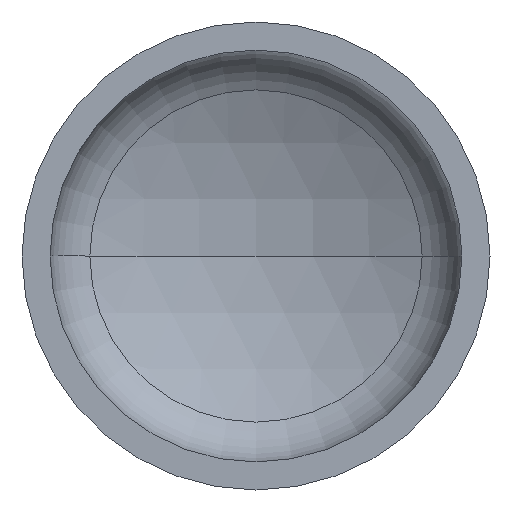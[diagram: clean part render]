
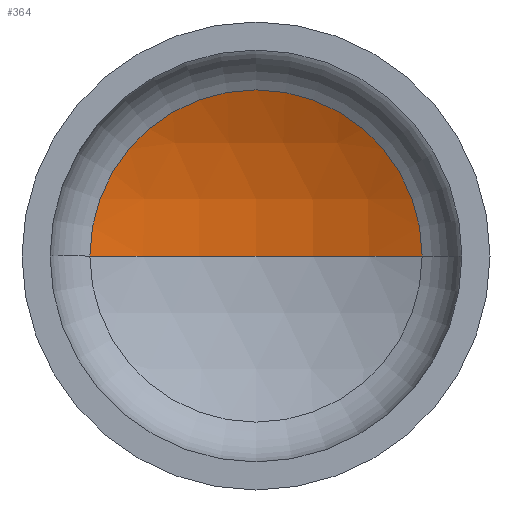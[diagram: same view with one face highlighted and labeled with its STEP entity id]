
A CAD part, front view. The second image highlights one B-rep face of the part: STEP entity #364.
In plain terms, the highlighted spherical face has radius 1440 mm.
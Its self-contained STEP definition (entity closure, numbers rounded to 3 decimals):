
#7 = AXIS2_PLACEMENT_3D ( 'NONE', #349, #381, #134 ) ;
#13 = EDGE_LOOP ( 'NONE', ( #68, #126, #52 ) ) ;
#18 = DIRECTION ( 'NONE',  ( -1., 0., 0. ) ) ;
#24 = DIRECTION ( 'NONE',  ( 0., 0., -1. ) ) ;
#31 = CARTESIAN_POINT ( 'NONE',  ( 0., -969., 0. ) ) ;
#48 = AXIS2_PLACEMENT_3D ( 'NONE', #228, #226, #227 ) ;
#50 = AXIS2_PLACEMENT_3D ( 'NONE', #31, #24, #18 ) ;
#52 = ORIENTED_EDGE ( 'NONE', *, *, #124, .T. ) ;
#54 = AXIS2_PLACEMENT_3D ( 'NONE', #209, #210, #149 ) ;
#56 = VERTEX_POINT ( 'NONE', #253 ) ;
#64 = FACE_OUTER_BOUND ( 'NONE', #13, .T. ) ;
#68 = ORIENTED_EDGE ( 'NONE', *, *, #156, .F. ) ;
#123 = SPHERICAL_SURFACE ( 'NONE', #7, 1440. ) ;
#124 = EDGE_CURVE ( 'NONE', #170, #56, #224, .T. ) ;
#126 = ORIENTED_EDGE ( 'NONE', *, *, #137, .T. ) ;
#134 = DIRECTION ( 'NONE',  ( -1., 0., 0. ) ) ;
#137 = EDGE_CURVE ( 'NONE', #142, #170, #333, .T. ) ;
#142 = VERTEX_POINT ( 'NONE', #206 ) ;
#149 = DIRECTION ( 'NONE',  ( 1., 0., 0. ) ) ;
#156 = EDGE_CURVE ( 'NONE', #142, #56, #218, .T. ) ;
#170 = VERTEX_POINT ( 'NONE', #204 ) ;
#204 = CARTESIAN_POINT ( 'NONE',  ( 639.039, 321.438, 0. ) ) ;
#206 = CARTESIAN_POINT ( 'NONE',  ( 0., 471., 0. ) ) ;
#209 = CARTESIAN_POINT ( 'NONE',  ( 0., 321.438, 0. ) ) ;
#210 = DIRECTION ( 'NONE',  ( 0., -1., 0. ) ) ;
#218 = CIRCLE ( 'NONE', #48, 1440. ) ;
#224 = CIRCLE ( 'NONE', #54, 639.039 ) ;
#226 = DIRECTION ( 'NONE',  ( 0., 0., 1. ) ) ;
#227 = DIRECTION ( 'NONE',  ( 1., 0., 0. ) ) ;
#228 = CARTESIAN_POINT ( 'NONE',  ( 0., -969., 0. ) ) ;
#253 = CARTESIAN_POINT ( 'NONE',  ( -639.039, 321.438, 0. ) ) ;
#333 = CIRCLE ( 'NONE', #50, 1440. ) ;
#349 = CARTESIAN_POINT ( 'NONE',  ( 0., -969., 0. ) ) ;
#364 = ADVANCED_FACE ( 'NONE', ( #64 ), #123, .F. ) ;
#381 = DIRECTION ( 'NONE',  ( 0., 0., -1. ) ) ;
